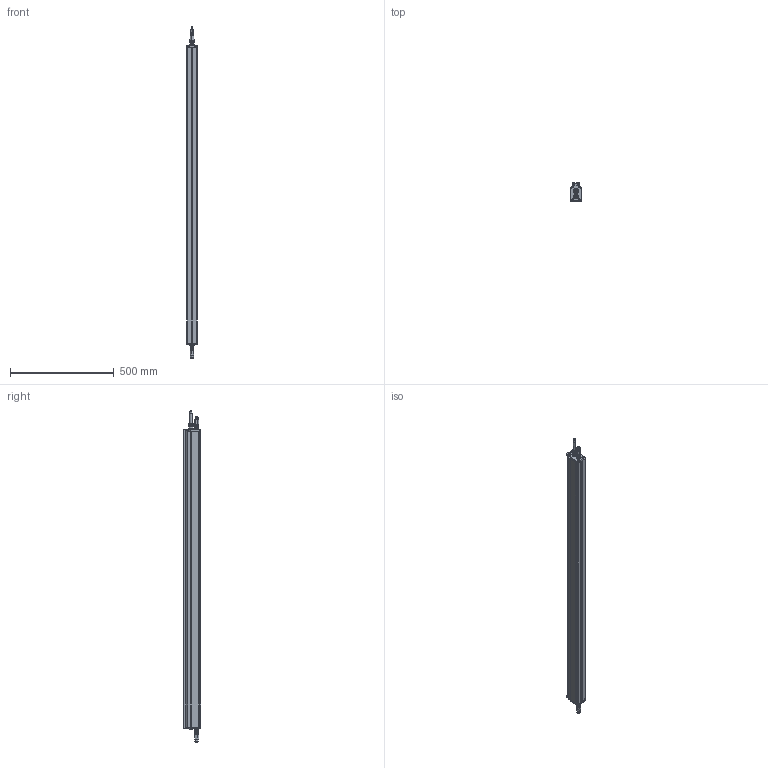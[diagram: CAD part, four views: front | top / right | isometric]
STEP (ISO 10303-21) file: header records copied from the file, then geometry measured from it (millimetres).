
FILE_DESCRIPTION (( 'STEP AP203' ), '1' );
FILE_NAME ('EFFI-LINE3-WTR-1400-ZZZ-PWR-FLY-LXX.STEP', '2024-05-14T08:11:57', ( '' ), ( '' ), 'SwSTEP 2.0', 'SolidWorks 2024', '' );
FILE_SCHEMA (( 'CONFIG_CONTROL_DESIGN' ));
Length unit declared in the file: millimetre
Products named in the file (1): EFFI-LINE3-WTR-1400-ZZZ-PWR-FLY-LXX
Bounding box: 52 x 86.25 x 1598.33 mm (x, y, z)
Surface area: 500309.5 mm2 (no closed solid volume)
Topology: 0 solids, 68 shells, 613 faces, 2010 edges, 1422 vertices
Faces by surface type: cylinder 226, plane 219, torus 98, cone 70
Entity records: 23116 total; most frequent: CARTESIAN_POINT 5502, DIRECTION 4005, ORIENTED_EDGE 3053, EDGE_CURVE 2008, AXIS2_PLACEMENT_3D 1582, VERTEX_POINT 1422, CIRCLE 968, LINE 841
